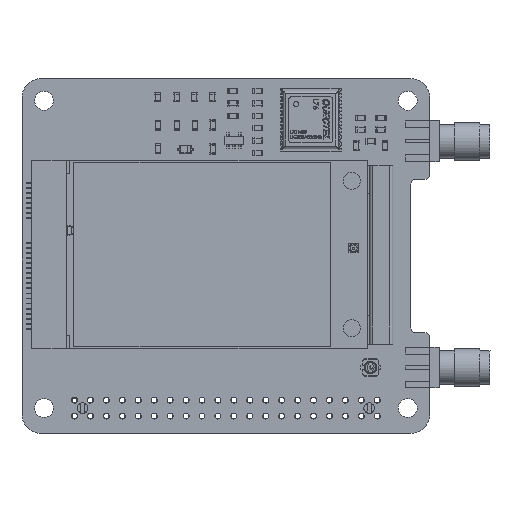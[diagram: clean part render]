
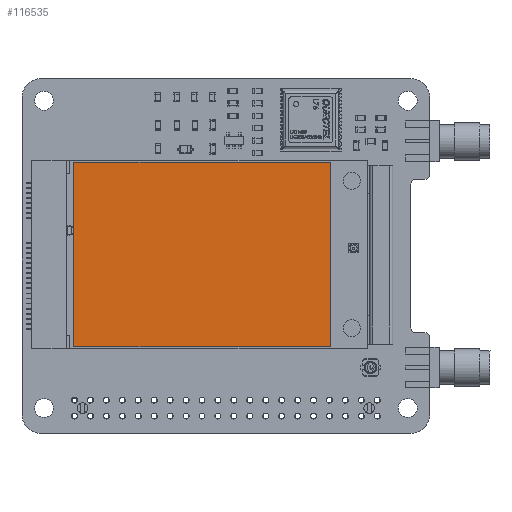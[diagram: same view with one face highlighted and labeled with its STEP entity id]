
A CAD part, top view. The second image highlights one B-rep face of the part: STEP entity #116535.
In plain terms, the highlighted planar face has unit normal (0, 0, 1) as drawn and (0, 1, 0) by its records, which use the part's own axes.
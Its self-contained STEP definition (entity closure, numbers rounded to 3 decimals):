
#115521=DIRECTION('',(0.,0.,1.));
#115522=VECTOR('',#115521,40.9);
#115523=CARTESIAN_POINT('',(-14.7,3.2,-45.1));
#115524=LINE('',#115523,#115522);
#115528=DIRECTION('',(-1.,0.,0.));
#115529=VECTOR('',#115528,29.4);
#115530=CARTESIAN_POINT('',(14.7,3.2,-45.1));
#115531=LINE('',#115530,#115529);
#115535=DIRECTION('',(0.,0.,-1.));
#115536=VECTOR('',#115535,40.9);
#115537=CARTESIAN_POINT('',(14.7,3.2,-4.2));
#115538=LINE('',#115537,#115536);
#115542=DIRECTION('',(1.,0.,0.));
#115543=VECTOR('',#115542,29.4);
#115544=CARTESIAN_POINT('',(-14.7,3.2,-4.2));
#115545=LINE('',#115544,#115543);
#115931=CARTESIAN_POINT('',(-14.7,3.2,-45.1));
#115932=CARTESIAN_POINT('',(-14.7,3.2,-4.2));
#115933=VERTEX_POINT('',#115931);
#115934=VERTEX_POINT('',#115932);
#115935=CARTESIAN_POINT('',(14.7,3.2,-4.2));
#115936=VERTEX_POINT('',#115935);
#115937=CARTESIAN_POINT('',(14.7,3.2,-45.1));
#115938=VERTEX_POINT('',#115937);
#116524=CARTESIAN_POINT('',(0.,3.2,0.));
#116525=DIRECTION('',(0.,1.,0.));
#116526=DIRECTION('',(1.,0.,0.));
#116527=AXIS2_PLACEMENT_3D('',#116524,#116525,#116526);
#116528=PLANE('',#116527);
#116529=ORIENTED_EDGE('',*,*,#116455,.F.);
#116530=ORIENTED_EDGE('',*,*,#116481,.F.);
#116531=ORIENTED_EDGE('',*,*,#116506,.F.);
#116532=ORIENTED_EDGE('',*,*,#116427,.F.);
#116533=EDGE_LOOP('',(#116529,#116530,#116531,#116532));
#116534=FACE_OUTER_BOUND('',#116533,.F.);
#116535=ADVANCED_FACE('',(#116534),#116528,.T.);
#116427=EDGE_CURVE('',#115934,#115936,#115545,.T.);
#116455=EDGE_CURVE('',#115933,#115934,#115524,.T.);
#116481=EDGE_CURVE('',#115938,#115933,#115531,.T.);
#116506=EDGE_CURVE('',#115936,#115938,#115538,.T.);
